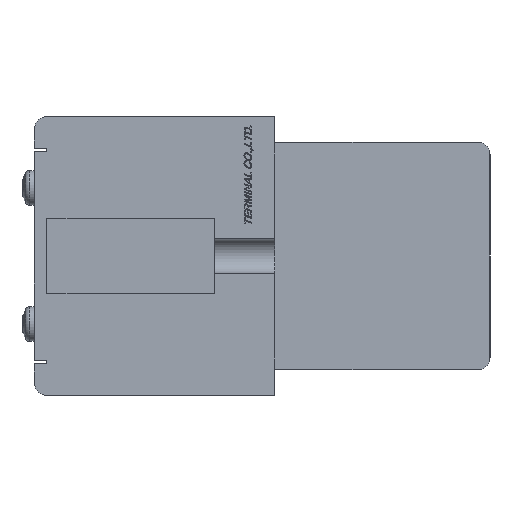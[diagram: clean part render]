
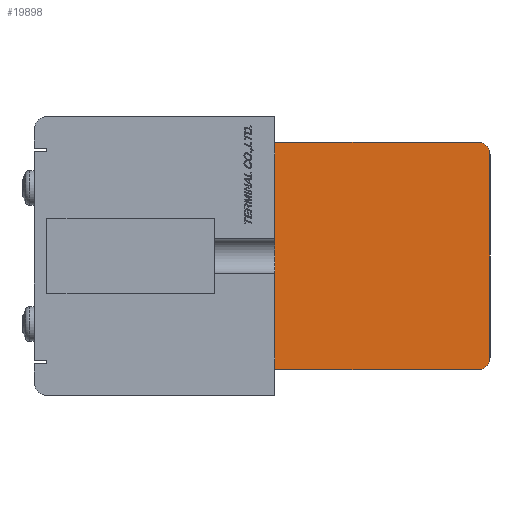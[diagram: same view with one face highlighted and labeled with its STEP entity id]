
A CAD part, left-side view. The second image highlights one B-rep face of the part: STEP entity #19898.
In plain terms, the highlighted planar face has unit normal (-1, 0, 0).
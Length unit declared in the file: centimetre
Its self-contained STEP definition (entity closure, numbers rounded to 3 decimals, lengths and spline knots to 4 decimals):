
#674=CIRCLE('',#32900,0.2);
#675=CIRCLE('',#32903,0.2);
#1566=VERTEX_POINT('',#27593);
#1567=VERTEX_POINT('',#27594);
#1568=VERTEX_POINT('',#27599);
#1569=VERTEX_POINT('',#27603);
#1570=VERTEX_POINT('',#27607);
#1571=VERTEX_POINT('',#27608);
#3729=VECTOR('',#22292,1.);
#3732=VECTOR('',#22300,1.);
#3733=VECTOR('',#22301,1.);
#3734=VECTOR('',#22302,1.);
#5762=LINE('',#27598,#3729);
#5765=LINE('',#27606,#3732);
#5766=LINE('',#27609,#3733);
#5767=LINE('',#27610,#3734);
#7911=EDGE_CURVE('',#1566,#1567,#674,.T.);
#7914=EDGE_CURVE('',#1567,#1568,#5762,.T.);
#7916=EDGE_CURVE('',#1568,#1569,#675,.T.);
#7918=EDGE_CURVE('',#1570,#1571,#5765,.T.);
#7919=EDGE_CURVE('',#1569,#1570,#5766,.T.);
#7920=EDGE_CURVE('',#1571,#1566,#5767,.T.);
#11522=ORIENTED_EDGE('',*,*,#7918,.F.);
#11523=ORIENTED_EDGE('',*,*,#7919,.F.);
#11524=ORIENTED_EDGE('',*,*,#7916,.F.);
#11525=ORIENTED_EDGE('',*,*,#7914,.F.);
#11526=ORIENTED_EDGE('',*,*,#7911,.F.);
#11527=ORIENTED_EDGE('',*,*,#7920,.F.);
#17190=EDGE_LOOP('',(#11522,#11523,#11524,#11525,#11526,#11527));
#18547=FACE_BOUND('',#17190,.T.);
#19898=ADVANCED_FACE('',(#18547),#21040,.F.);
#21040=PLANE('',#32904);
#22287=DIRECTION('',(1.,0.,0.));
#22288=DIRECTION('',(0.,0.,-0.2));
#22292=DIRECTION('',(0.,0.,-1.));
#22296=DIRECTION('',(1.,0.,0.));
#22297=DIRECTION('',(0.,0.,-0.2));
#22299=DIRECTION('',(1.,0.,0.));
#22300=DIRECTION('',(0.,0.,1.));
#22301=DIRECTION('',(0.,1.,0.));
#22302=DIRECTION('',(0.,-1.,0.));
#27592=CARTESIAN_POINT('',(-5.1,-3.2,1.6));
#27593=CARTESIAN_POINT('',(-5.1,-3.2,1.8));
#27594=CARTESIAN_POINT('',(-5.1,-3.4,1.6));
#27598=CARTESIAN_POINT('',(-5.1,-3.4,-1.6));
#27599=CARTESIAN_POINT('',(-5.1,-3.4,-1.6));
#27602=CARTESIAN_POINT('',(-5.1,-3.2,-1.6));
#27603=CARTESIAN_POINT('',(-5.1,-3.2,-1.8));
#27605=CARTESIAN_POINT('',(-5.1,-1.6784,0.));
#27606=CARTESIAN_POINT('',(-5.1,0.,1.8));
#27607=CARTESIAN_POINT('',(-5.1,0.,-1.8));
#27608=CARTESIAN_POINT('',(-5.1,0.,1.8));
#27609=CARTESIAN_POINT('',(-5.1,0.,-1.8));
#27610=CARTESIAN_POINT('',(-5.1,-3.2,1.8));
#32900=AXIS2_PLACEMENT_3D('',#27592,#22287,#22288);
#32903=AXIS2_PLACEMENT_3D('',#27602,#22296,#22297);
#32904=AXIS2_PLACEMENT_3D('',#27605,#22299,$);
